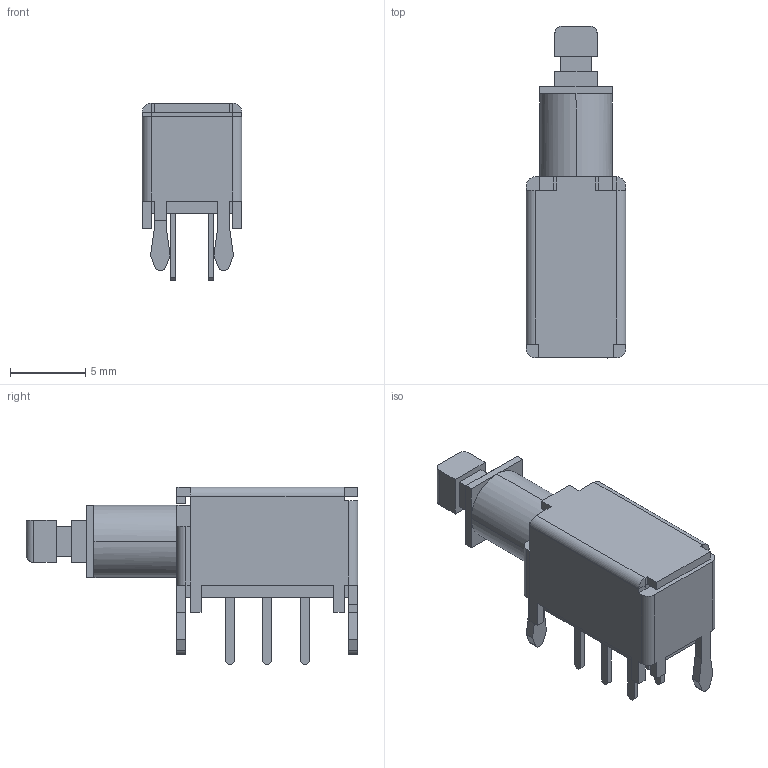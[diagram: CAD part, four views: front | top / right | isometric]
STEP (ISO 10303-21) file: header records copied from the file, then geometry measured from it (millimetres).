
FILE_DESCRIPTION (( 'STEP AP214' ), '1' );
FILE_NAME ('SPPJ320600.STEP', '2010-02-05T08:16:22', ( ' ' ), ( '' ), 'SwSTEP 2.0', 'SolidWorks 2007', '' );
FILE_SCHEMA (( 'AUTOMOTIVE_DESIGN' ));
Length unit declared in the file: millimetre
Products named in the file (1): SPPJ320600
Bounding box: 6.6 x 22 x 11.8 mm (x, y, z)
Volume: 701.2 mm3; surface area: 673 mm2
Topology: 1 solids, 1 shells, 189 faces, 479 edges, 301 vertices
Faces by surface type: plane 174, cylinder 15
Entity records: 7626 total; most frequent: CARTESIAN_POINT 976, ORIENTED_EDGE 958, DIRECTION 888, EDGE_CURVE 479, VECTOR 446, LINE 446, VERTEX_POINT 301, AXIS2_PLACEMENT_3D 221
